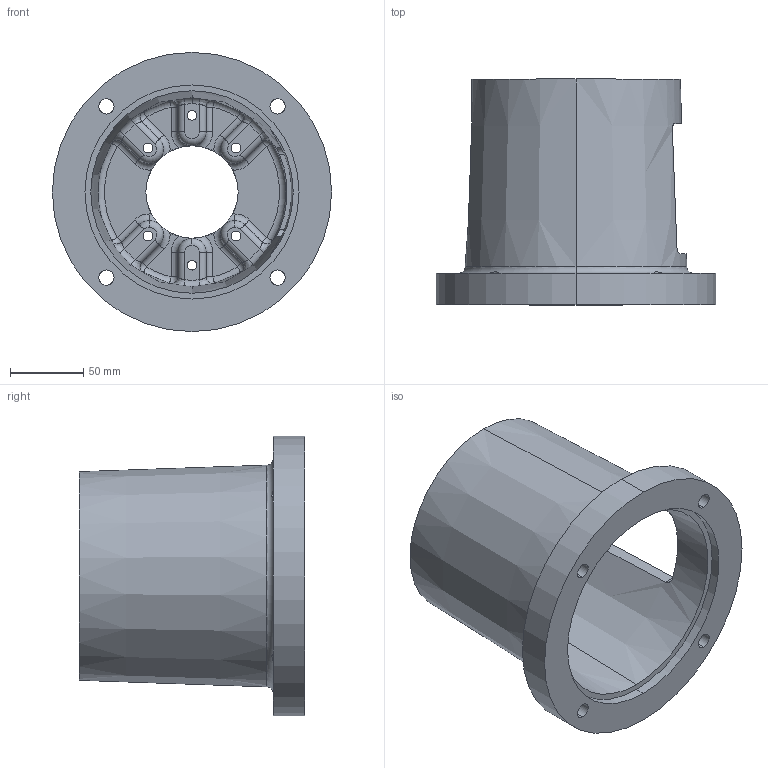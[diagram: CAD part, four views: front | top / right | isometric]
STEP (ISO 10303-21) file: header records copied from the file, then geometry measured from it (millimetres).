
FILE_DESCRIPTION (( 'STEP AP203' ), '1' );
FILE_NAME ('E5756063M.STEP', '2014-11-03T16:09:50', ( '' ), ( '' ), 'SwSTEP 2.0', 'SolidWorks 2014', '' );
FILE_SCHEMA (( 'CONFIG_CONTROL_DESIGN' ));
Length unit declared in the file: inch
Products named in the file (1): E5756063M
Bounding box: 190.5 x 153.92 x 190.5 mm (x, y, z)
Volume: 755180.9 mm3; surface area: 179890.3 mm2
Topology: 1 solids, 1 shells, 168 faces, 422 edges, 242 vertices
Faces by surface type: cylinder 63, torus 33, plane 32, bspline 24, sphere 12, cone 4
Entity records: 6888 total; most frequent: CARTESIAN_POINT 2895, DIRECTION 857, ORIENTED_EDGE 820, EDGE_CURVE 410, AXIS2_PLACEMENT_3D 378, VERTEX_POINT 242, CIRCLE 233, EDGE_LOOP 190
